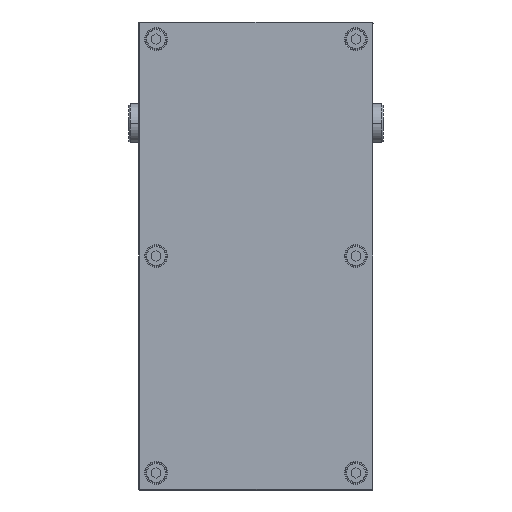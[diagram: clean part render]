
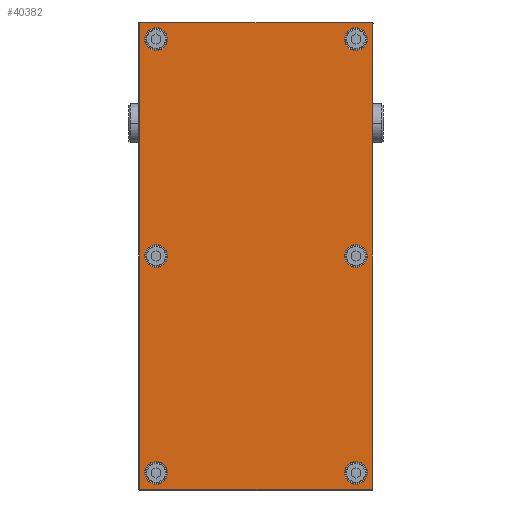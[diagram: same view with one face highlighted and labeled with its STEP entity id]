
A CAD part, front view. The second image highlights one B-rep face of the part: STEP entity #40382.
In plain terms, the highlighted planar face has unit normal (0, -1, 0).
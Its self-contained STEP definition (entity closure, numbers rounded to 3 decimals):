
#38941=CARTESIAN_POINT('',(149.,-9.,-74.));
#38942=DIRECTION('',(0.,-1.,0.));
#38943=DIRECTION('',(0.,0.,-1.));
#38944=AXIS2_PLACEMENT_3D('',#38941,#38942,#38943);
#38946=DIRECTION('',(1.,0.,0.));
#38947=VECTOR('',#38946,298.);
#38948=CARTESIAN_POINT('',(-149.,-9.,
-74.5));
#38949=LINE('',#38948,#38947);
#38950=CARTESIAN_POINT('',(-149.,-9.,-74.));
#38951=DIRECTION('',(0.,-1.,0.));
#38952=DIRECTION('',(-1.,0.,0.));
#38953=AXIS2_PLACEMENT_3D('',#38950,#38951,#38952);
#38955=DIRECTION('',(0.,0.,-1.));
#38956=VECTOR('',#38955,148.);
#38957=CARTESIAN_POINT('',(-149.5,-9.,74.));
#38958=LINE('',#38957,#38956);
#38959=CARTESIAN_POINT('',(-149.,-9.,74.));
#38960=DIRECTION('',(0.,-1.,0.));
#38961=DIRECTION('',(0.,0.,1.));
#38962=AXIS2_PLACEMENT_3D('',#38959,#38960,#38961);
#38964=DIRECTION('',(-1.,0.,0.));
#38965=VECTOR('',#38964,298.);
#38966=CARTESIAN_POINT('',(149.,-9.,
74.5));
#38967=LINE('',#38966,#38965);
#38968=CARTESIAN_POINT('',(149.,-9.,74.));
#38969=DIRECTION('',(0.,-1.,0.));
#38970=DIRECTION('',(1.,0.,0.));
#38971=AXIS2_PLACEMENT_3D('',#38968,#38969,#38970);
#38973=DIRECTION('',(0.,0.,1.));
#38974=VECTOR('',#38973,148.);
#38975=CARTESIAN_POINT('',(149.5,-9.,-74.));
#38976=LINE('',#38975,#38974);
#38977=CARTESIAN_POINT('',(-139.,-9.,-64.));
#38978=DIRECTION('',(0.,1.,0.));
#38979=DIRECTION('',(1.,0.,0.));
#38980=AXIS2_PLACEMENT_3D('',#38977,#38978,#38979);
#38982=CARTESIAN_POINT('',(-139.,-9.,-64.));
#38983=DIRECTION('',(0.,1.,0.));
#38984=DIRECTION('',(-1.,0.,0.));
#38985=AXIS2_PLACEMENT_3D('',#38982,#38983,#38984);
#38987=CARTESIAN_POINT('',(0.,-9.,-64.));
#38988=DIRECTION('',(0.,1.,0.));
#38989=DIRECTION('',(1.,0.,0.));
#38990=AXIS2_PLACEMENT_3D('',#38987,#38988,#38989);
#38992=CARTESIAN_POINT('',(0.,-9.,-64.));
#38993=DIRECTION('',(0.,1.,0.));
#38994=DIRECTION('',(-1.,0.,0.));
#38995=AXIS2_PLACEMENT_3D('',#38992,#38993,#38994);
#38997=CARTESIAN_POINT('',(139.,-9.,-64.));
#38998=DIRECTION('',(0.,1.,0.));
#38999=DIRECTION('',(1.,0.,0.));
#39000=AXIS2_PLACEMENT_3D('',#38997,#38998,#38999);
#39002=CARTESIAN_POINT('',(139.,-9.,-64.));
#39003=DIRECTION('',(0.,1.,0.));
#39004=DIRECTION('',(-1.,0.,0.));
#39005=AXIS2_PLACEMENT_3D('',#39002,#39003,#39004);
#39007=CARTESIAN_POINT('',(139.,-9.,64.));
#39008=DIRECTION('',(0.,1.,0.));
#39009=DIRECTION('',(1.,0.,0.));
#39010=AXIS2_PLACEMENT_3D('',#39007,#39008,#39009);
#39012=CARTESIAN_POINT('',(139.,-9.,64.));
#39013=DIRECTION('',(0.,1.,0.));
#39014=DIRECTION('',(-1.,0.,0.));
#39015=AXIS2_PLACEMENT_3D('',#39012,#39013,#39014);
#39017=CARTESIAN_POINT('',(0.,-9.,64.));
#39018=DIRECTION('',(0.,1.,0.));
#39019=DIRECTION('',(1.,0.,0.));
#39020=AXIS2_PLACEMENT_3D('',#39017,#39018,#39019);
#39022=CARTESIAN_POINT('',(0.,-9.,64.));
#39023=DIRECTION('',(0.,1.,0.));
#39024=DIRECTION('',(-1.,0.,0.));
#39025=AXIS2_PLACEMENT_3D('',#39022,#39023,#39024);
#39027=CARTESIAN_POINT('',(-139.,-9.,64.));
#39028=DIRECTION('',(0.,1.,0.));
#39029=DIRECTION('',(1.,0.,0.));
#39030=AXIS2_PLACEMENT_3D('',#39027,#39028,#39029);
#39032=CARTESIAN_POINT('',(-139.,-9.,64.));
#39033=DIRECTION('',(0.,1.,0.));
#39034=DIRECTION('',(-1.,0.,0.));
#39035=AXIS2_PLACEMENT_3D('',#39032,#39033,#39034);
#40111=CARTESIAN_POINT('',(149.,-9.,-74.5));
#40112=CARTESIAN_POINT('',(149.5,-9.,-74.));
#40113=VERTEX_POINT('',#40111);
#40114=VERTEX_POINT('',#40112);
#40119=CARTESIAN_POINT('',(149.5,-9.,
74.));
#40120=VERTEX_POINT('',#40119);
#40123=CARTESIAN_POINT('',(149.,-9.,74.5));
#40124=VERTEX_POINT('',#40123);
#40127=CARTESIAN_POINT('',(-149.,-9.,
74.5));
#40128=VERTEX_POINT('',#40127);
#40131=CARTESIAN_POINT('',(-149.5,-9.,74.));
#40132=VERTEX_POINT('',#40131);
#40135=CARTESIAN_POINT('',(-149.5,-9.,
-74.));
#40136=VERTEX_POINT('',#40135);
#40139=CARTESIAN_POINT('',(-149.,-9.,-74.5));
#40140=VERTEX_POINT('',#40139);
#40167=CARTESIAN_POINT('',(-131.7,-9.,-64.));
#40168=CARTESIAN_POINT('',(-146.3,-9.,-64.));
#40169=VERTEX_POINT('',#40167);
#40170=VERTEX_POINT('',#40168);
#40183=CARTESIAN_POINT('',(7.3,-9.,-64.));
#40184=CARTESIAN_POINT('',(-7.3,-9.,-64.));
#40185=VERTEX_POINT('',#40183);
#40186=VERTEX_POINT('',#40184);
#40207=CARTESIAN_POINT('',(146.3,-9.,-64.));
#40208=CARTESIAN_POINT('',(131.7,-9.,-64.));
#40209=VERTEX_POINT('',#40207);
#40210=VERTEX_POINT('',#40208);
#40223=CARTESIAN_POINT('',(146.3,-9.,64.));
#40224=CARTESIAN_POINT('',(131.7,-9.,64.));
#40225=VERTEX_POINT('',#40223);
#40226=VERTEX_POINT('',#40224);
#40231=CARTESIAN_POINT('',(7.3,-9.,64.));
#40232=CARTESIAN_POINT('',(-7.3,-9.,64.));
#40233=VERTEX_POINT('',#40231);
#40234=VERTEX_POINT('',#40232);
#40255=CARTESIAN_POINT('',(-131.7,-9.,64.));
#40256=CARTESIAN_POINT('',(-146.3,-9.,64.));
#40257=VERTEX_POINT('',#40255);
#40258=VERTEX_POINT('',#40256);
#40323=CARTESIAN_POINT('',(0.,-9.,0.));
#40324=DIRECTION('',(0.,1.,0.));
#40325=DIRECTION('',(1.,0.,0.));
#40326=AXIS2_PLACEMENT_3D('',#40323,#40324,#40325);
#40327=PLANE('',#40326);
#40329=ORIENTED_EDGE('',*,*,#40328,.F.);
#40331=ORIENTED_EDGE('',*,*,#40330,.F.);
#40333=ORIENTED_EDGE('',*,*,#40332,.F.);
#40335=ORIENTED_EDGE('',*,*,#40334,.F.);
#40337=ORIENTED_EDGE('',*,*,#40336,.F.);
#40339=ORIENTED_EDGE('',*,*,#40338,.F.);
#40341=ORIENTED_EDGE('',*,*,#40340,.F.);
#40343=ORIENTED_EDGE('',*,*,#40342,.F.);
#40344=EDGE_LOOP('',(#40329,#40331,#40333,#40335,#40337,#40339,#40341,#40343));
#40345=FACE_OUTER_BOUND('',#40344,.F.);
#40347=ORIENTED_EDGE('',*,*,#40346,.F.);
#40349=ORIENTED_EDGE('',*,*,#40348,.F.);
#40350=EDGE_LOOP('',(#40347,#40349));
#40351=FACE_BOUND('',#40350,.F.);
#40353=ORIENTED_EDGE('',*,*,#40352,.F.);
#40355=ORIENTED_EDGE('',*,*,#40354,.F.);
#40356=EDGE_LOOP('',(#40353,#40355));
#40357=FACE_BOUND('',#40356,.F.);
#40359=ORIENTED_EDGE('',*,*,#40358,.F.);
#40361=ORIENTED_EDGE('',*,*,#40360,.F.);
#40362=EDGE_LOOP('',(#40359,#40361));
#40363=FACE_BOUND('',#40362,.F.);
#40365=ORIENTED_EDGE('',*,*,#40364,.F.);
#40367=ORIENTED_EDGE('',*,*,#40366,.F.);
#40368=EDGE_LOOP('',(#40365,#40367));
#40369=FACE_BOUND('',#40368,.F.);
#40371=ORIENTED_EDGE('',*,*,#40370,.F.);
#40373=ORIENTED_EDGE('',*,*,#40372,.F.);
#40374=EDGE_LOOP('',(#40371,#40373));
#40375=FACE_BOUND('',#40374,.F.);
#40377=ORIENTED_EDGE('',*,*,#40376,.F.);
#40379=ORIENTED_EDGE('',*,*,#40378,.F.);
#40380=EDGE_LOOP('',(#40377,#40379));
#40381=FACE_BOUND('',#40380,.F.);
#40382=ADVANCED_FACE('',(#40345,#40351,#40357,#40363,#40369,#40375,#40381),
#40327,.F.);
#38945=CIRCLE('',#38944,0.5);
#38954=CIRCLE('',#38953,0.5);
#38963=CIRCLE('',#38962,0.5);
#38972=CIRCLE('',#38971,0.5);
#38981=CIRCLE('',#38980,7.3);
#38986=CIRCLE('',#38985,7.3);
#38991=CIRCLE('',#38990,7.3);
#38996=CIRCLE('',#38995,7.3);
#39001=CIRCLE('',#39000,7.3);
#39006=CIRCLE('',#39005,7.3);
#39011=CIRCLE('',#39010,7.3);
#39016=CIRCLE('',#39015,7.3);
#39021=CIRCLE('',#39020,7.3);
#39026=CIRCLE('',#39025,7.3);
#39031=CIRCLE('',#39030,7.3);
#39036=CIRCLE('',#39035,7.3);
#40328=EDGE_CURVE('',#40113,#40114,#38945,.T.);
#40330=EDGE_CURVE('',#40140,#40113,#38949,.T.);
#40332=EDGE_CURVE('',#40136,#40140,#38954,.T.);
#40334=EDGE_CURVE('',#40132,#40136,#38958,.T.);
#40336=EDGE_CURVE('',#40128,#40132,#38963,.T.);
#40338=EDGE_CURVE('',#40124,#40128,#38967,.T.);
#40340=EDGE_CURVE('',#40120,#40124,#38972,.T.);
#40342=EDGE_CURVE('',#40114,#40120,#38976,.T.);
#40346=EDGE_CURVE('',#40169,#40170,#38981,.T.);
#40348=EDGE_CURVE('',#40170,#40169,#38986,.T.);
#40352=EDGE_CURVE('',#40185,#40186,#38991,.T.);
#40354=EDGE_CURVE('',#40186,#40185,#38996,.T.);
#40358=EDGE_CURVE('',#40209,#40210,#39001,.T.);
#40360=EDGE_CURVE('',#40210,#40209,#39006,.T.);
#40364=EDGE_CURVE('',#40225,#40226,#39011,.T.);
#40366=EDGE_CURVE('',#40226,#40225,#39016,.T.);
#40370=EDGE_CURVE('',#40233,#40234,#39021,.T.);
#40372=EDGE_CURVE('',#40234,#40233,#39026,.T.);
#40376=EDGE_CURVE('',#40257,#40258,#39031,.T.);
#40378=EDGE_CURVE('',#40258,#40257,#39036,.T.);
